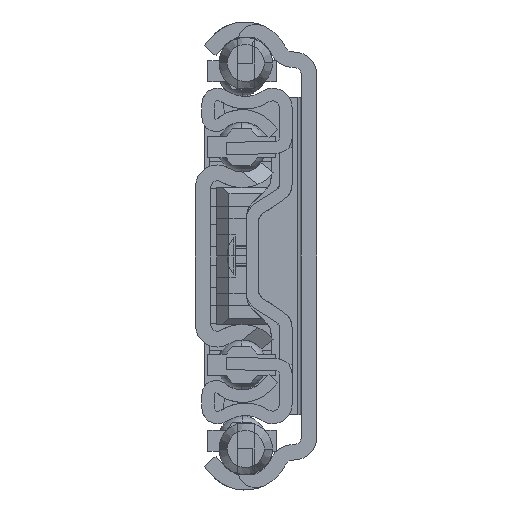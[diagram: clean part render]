
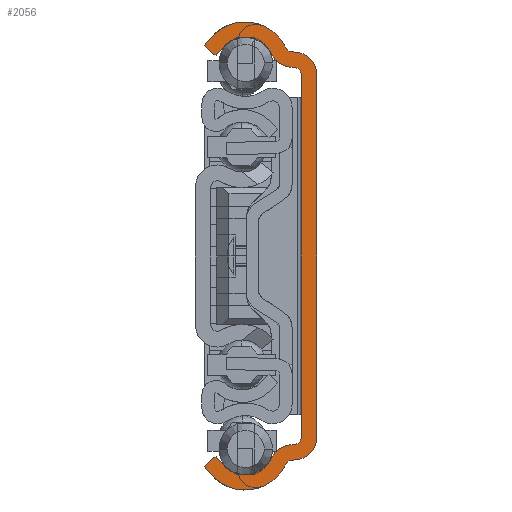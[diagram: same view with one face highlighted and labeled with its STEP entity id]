
A CAD part, left-side view. The second image highlights one B-rep face of the part: STEP entity #2056.
In plain terms, the highlighted planar face has unit normal (-1, 0, 0).
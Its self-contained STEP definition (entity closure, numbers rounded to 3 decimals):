
#1=CARTESIAN_POINT('',(0.,4.008,-33.854));
#2=DIRECTION('',(-1.,0.,0.));
#3=DIRECTION('',(0.,0.087,0.996));
#4=AXIS2_PLACEMENT_3D('',#1,#2,#3);
#6=DIRECTION('',(0.,-0.996,0.087));
#7=VECTOR('',#6,0.904);
#8=CARTESIAN_POINT('',(0.,4.313,-30.368));
#9=LINE('',#8,#7);
#10=DIRECTION('',(0.,0.,1.));
#11=VECTOR('',#10,58.586);
#12=CARTESIAN_POINT('',(0.,2.5,-29.293));
#13=LINE('',#12,#11);
#14=DIRECTION('',(0.,0.996,0.087));
#15=VECTOR('',#14,0.904);
#16=CARTESIAN_POINT('',(0.,3.413,30.289));
#17=LINE('',#16,#15);
#18=CARTESIAN_POINT('',(0.,4.008,33.854));
#19=DIRECTION('',(-1.,0.,0.));
#20=DIRECTION('',(0.,0.908,-0.419));
#21=AXIS2_PLACEMENT_3D('',#18,#19,#20);
#23=CARTESIAN_POINT('',(0.,11.5,30.4));
#24=DIRECTION('',(-1.,0.,0.));
#25=DIRECTION('',(0.,-0.908,0.419));
#26=AXIS2_PLACEMENT_3D('',#23,#24,#25);
#28=DIRECTION('',(0.,0.639,-0.769));
#29=VECTOR('',#28,1.599);
#30=CARTESIAN_POINT('',(0.,15.155,33.434));
#31=LINE('',#30,#29);
#32=DIRECTION('',(0.,0.769,0.639));
#33=VECTOR('',#32,2.5);
#34=CARTESIAN_POINT('',(0.,16.176,32.203));
#35=LINE('',#34,#33);
#36=DIRECTION('',(0.,-0.639,0.769));
#37=VECTOR('',#36,1.599);
#38=CARTESIAN_POINT('',(0.,18.1,33.8));
#39=LINE('',#38,#37);
#40=CARTESIAN_POINT('',(0.,11.5,30.4));
#41=DIRECTION('',(1.,0.,0.));
#42=DIRECTION('',(0.,0.769,0.639));
#43=AXIS2_PLACEMENT_3D('',#40,#41,#42);
#45=DIRECTION('',(0.,-0.996,-0.087));
#46=VECTOR('',#45,0.904);
#47=CARTESIAN_POINT('',(0.,4.095,32.858));
#48=LINE('',#47,#46);
#49=CARTESIAN_POINT('',(0.,3.5,29.293));
#50=DIRECTION('',(-1.,0.,0.));
#51=DIRECTION('',(0.,-1.,0.));
#52=AXIS2_PLACEMENT_3D('',#49,#50,#51);
#54=DIRECTION('',(0.,0.,-1.));
#55=VECTOR('',#54,58.586);
#56=CARTESIAN_POINT('',(0.,0.,29.293));
#57=LINE('',#56,#55);
#58=CARTESIAN_POINT('',(0.,3.5,-29.293));
#59=DIRECTION('',(-1.,0.,0.));
#60=DIRECTION('',(0.,-0.087,-0.996));
#61=AXIS2_PLACEMENT_3D('',#58,#59,#60);
#63=DIRECTION('',(0.,0.996,-0.087));
#64=VECTOR('',#63,0.904);
#65=CARTESIAN_POINT('',(0.,3.195,-32.78));
#66=LINE('',#65,#64);
#67=CARTESIAN_POINT('',(0.,11.5,-30.4));
#68=DIRECTION('',(1.,0.,0.));
#69=DIRECTION('',(0.,-0.908,-0.419));
#70=AXIS2_PLACEMENT_3D('',#67,#68,#69);
#72=DIRECTION('',(0.,0.639,0.769));
#73=VECTOR('',#72,1.599);
#74=CARTESIAN_POINT('',(0.,17.079,-35.031));
#75=LINE('',#74,#73);
#76=DIRECTION('',(0.,-0.769,0.639));
#77=VECTOR('',#76,2.5);
#78=CARTESIAN_POINT('',(0.,18.1,-33.8));
#79=LINE('',#78,#77);
#80=DIRECTION('',(0.,-0.639,-0.769));
#81=VECTOR('',#80,1.599);
#82=CARTESIAN_POINT('',(0.,16.176,-32.203));
#83=LINE('',#82,#81);
#84=CARTESIAN_POINT('',(0.,11.5,-30.4));
#85=DIRECTION('',(-1.,0.,0.));
#86=DIRECTION('',(0.,0.769,-0.639));
#87=AXIS2_PLACEMENT_3D('',#84,#85,#86);
#725=CARTESIAN_POINT('',(0.,4.008,-33.854));
#726=DIRECTION('',(1.,0.,0.));
#727=DIRECTION('',(0.,0.908,0.419));
#728=AXIS2_PLACEMENT_3D('',#725,#726,#727);
#743=CARTESIAN_POINT('',(0.,4.008,33.854));
#744=DIRECTION('',(1.,0.,0.));
#745=DIRECTION('',(0.,0.087,-0.996));
#746=AXIS2_PLACEMENT_3D('',#743,#744,#745);
#923=CARTESIAN_POINT('',(0.,3.5,29.293));
#924=DIRECTION('',(1.,0.,0.));
#925=DIRECTION('',(0.,-0.087,0.996));
#926=AXIS2_PLACEMENT_3D('',#923,#924,#925);
#1229=CARTESIAN_POINT('',(0.,3.5,-29.293));
#1230=DIRECTION('',(1.,0.,0.));
#1231=DIRECTION('',(0.,-1.,0.));
#1232=AXIS2_PLACEMENT_3D('',#1229,#1230,#1231);
#1537=CARTESIAN_POINT('',(0.,18.1,33.8));
#1538=CARTESIAN_POINT('',(0.,17.079,35.031));
#1539=VERTEX_POINT('',#1537);
#1540=VERTEX_POINT('',#1538);
#1541=CARTESIAN_POINT('',(0.,17.079,-35.031));
#1542=CARTESIAN_POINT('',(0.,18.1,-33.8));
#1543=VERTEX_POINT('',#1541);
#1544=VERTEX_POINT('',#1542);
#1545=CARTESIAN_POINT('',(0.,16.176,-32.203));
#1546=VERTEX_POINT('',#1545);
#1547=CARTESIAN_POINT('',(0.,15.155,-33.434));
#1548=VERTEX_POINT('',#1547);
#1549=CARTESIAN_POINT('',(0.,15.155,33.434));
#1550=CARTESIAN_POINT('',(0.,16.176,32.203));
#1551=VERTEX_POINT('',#1549);
#1552=VERTEX_POINT('',#1550);
#1569=CARTESIAN_POINT('',(0.,2.5,-29.293));
#1571=VERTEX_POINT('',#1569);
#1573=CARTESIAN_POINT('',(0.,3.413,-30.289));
#1575=VERTEX_POINT('',#1573);
#1577=CARTESIAN_POINT('',(0.,3.413,30.289));
#1579=VERTEX_POINT('',#1577);
#1581=CARTESIAN_POINT('',(0.,2.5,29.293));
#1583=VERTEX_POINT('',#1581);
#1585=CARTESIAN_POINT('',(0.,4.095,32.858));
#1587=VERTEX_POINT('',#1585);
#1589=CARTESIAN_POINT('',(0.,4.916,33.436));
#1591=VERTEX_POINT('',#1589);
#1593=CARTESIAN_POINT('',(0.,4.916,-33.436));
#1595=VERTEX_POINT('',#1593);
#1597=CARTESIAN_POINT('',(0.,4.095,-32.858));
#1599=VERTEX_POINT('',#1597);
#1601=CARTESIAN_POINT('',(0.,4.313,-30.368));
#1602=CARTESIAN_POINT('',(0.,7.186,-32.389));
#1603=VERTEX_POINT('',#1601);
#1604=VERTEX_POINT('',#1602);
#1609=CARTESIAN_POINT('',(0.,7.186,32.389));
#1610=CARTESIAN_POINT('',(0.,4.313,30.368));
#1611=VERTEX_POINT('',#1609);
#1612=VERTEX_POINT('',#1610);
#1617=CARTESIAN_POINT('',(0.,0.,29.293));
#1618=CARTESIAN_POINT('',(0.,3.195,32.78));
#1619=VERTEX_POINT('',#1617);
#1620=VERTEX_POINT('',#1618);
#1625=CARTESIAN_POINT('',(0.,3.195,-32.78));
#1626=CARTESIAN_POINT('',(0.,0.,-29.293));
#1627=VERTEX_POINT('',#1625);
#1628=VERTEX_POINT('',#1626);
#2001=CARTESIAN_POINT('',(0.,0.,0.));
#2002=DIRECTION('',(1.,0.,0.));
#2003=DIRECTION('',(0.,-1.,0.));
#2004=AXIS2_PLACEMENT_3D('',#2001,#2002,#2003);
#2005=PLANE('',#2004);
#2007=ORIENTED_EDGE('',*,*,#2006,.F.);
#2009=ORIENTED_EDGE('',*,*,#2008,.T.);
#2011=ORIENTED_EDGE('',*,*,#2010,.F.);
#2013=ORIENTED_EDGE('',*,*,#2012,.T.);
#2015=ORIENTED_EDGE('',*,*,#2014,.F.);
#2017=ORIENTED_EDGE('',*,*,#2016,.T.);
#2019=ORIENTED_EDGE('',*,*,#2018,.F.);
#2021=ORIENTED_EDGE('',*,*,#2020,.T.);
#2023=ORIENTED_EDGE('',*,*,#2022,.T.);
#2025=ORIENTED_EDGE('',*,*,#2024,.T.);
#2027=ORIENTED_EDGE('',*,*,#2026,.T.);
#2029=ORIENTED_EDGE('',*,*,#2028,.T.);
#2031=ORIENTED_EDGE('',*,*,#2030,.F.);
#2033=ORIENTED_EDGE('',*,*,#2032,.T.);
#2035=ORIENTED_EDGE('',*,*,#2034,.F.);
#2037=ORIENTED_EDGE('',*,*,#2036,.T.);
#2039=ORIENTED_EDGE('',*,*,#2038,.F.);
#2041=ORIENTED_EDGE('',*,*,#2040,.T.);
#2043=ORIENTED_EDGE('',*,*,#2042,.F.);
#2045=ORIENTED_EDGE('',*,*,#2044,.T.);
#2047=ORIENTED_EDGE('',*,*,#2046,.T.);
#2049=ORIENTED_EDGE('',*,*,#2048,.T.);
#2051=ORIENTED_EDGE('',*,*,#2050,.T.);
#2053=ORIENTED_EDGE('',*,*,#2052,.T.);
#2054=EDGE_LOOP('',(#2007,#2009,#2011,#2013,#2015,#2017,#2019,#2021,#2023,#2025,
#2027,#2029,#2031,#2033,#2035,#2037,#2039,#2041,#2043,#2045,#2047,#2049,#2051,
#2053));
#2055=FACE_OUTER_BOUND('',#2054,.F.);
#5=CIRCLE('',#4,3.5);
#22=CIRCLE('',#21,3.5);
#27=CIRCLE('',#26,4.75);
#44=CIRCLE('',#43,7.25);
#53=CIRCLE('',#52,3.5);
#62=CIRCLE('',#61,3.5);
#71=CIRCLE('',#70,7.25);
#88=CIRCLE('',#87,4.75);
#729=CIRCLE('',#728,1.);
#747=CIRCLE('',#746,1.);
#927=CIRCLE('',#926,1.);
#1233=CIRCLE('',#1232,1.);
#2006=EDGE_CURVE('',#1603,#1604,#5,.T.);
#2008=EDGE_CURVE('',#1603,#1575,#9,.T.);
#2010=EDGE_CURVE('',#1571,#1575,#1233,.T.);
#2012=EDGE_CURVE('',#1571,#1583,#13,.T.);
#2014=EDGE_CURVE('',#1579,#1583,#927,.T.);
#2016=EDGE_CURVE('',#1579,#1612,#17,.T.);
#2018=EDGE_CURVE('',#1611,#1612,#22,.T.);
#2020=EDGE_CURVE('',#1611,#1551,#27,.T.);
#2022=EDGE_CURVE('',#1551,#1552,#31,.T.);
#2024=EDGE_CURVE('',#1552,#1539,#35,.T.);
#2026=EDGE_CURVE('',#1539,#1540,#39,.T.);
#2028=EDGE_CURVE('',#1540,#1591,#44,.T.);
#2030=EDGE_CURVE('',#1587,#1591,#747,.T.);
#2032=EDGE_CURVE('',#1587,#1620,#48,.T.);
#2034=EDGE_CURVE('',#1619,#1620,#53,.T.);
#2036=EDGE_CURVE('',#1619,#1628,#57,.T.);
#2038=EDGE_CURVE('',#1627,#1628,#62,.T.);
#2040=EDGE_CURVE('',#1627,#1599,#66,.T.);
#2042=EDGE_CURVE('',#1595,#1599,#729,.T.);
#2044=EDGE_CURVE('',#1595,#1543,#71,.T.);
#2046=EDGE_CURVE('',#1543,#1544,#75,.T.);
#2048=EDGE_CURVE('',#1544,#1546,#79,.T.);
#2050=EDGE_CURVE('',#1546,#1548,#83,.T.);
#2052=EDGE_CURVE('',#1548,#1604,#88,.T.);
#2056=ADVANCED_FACE('',(#2055),#2005,.F.);
